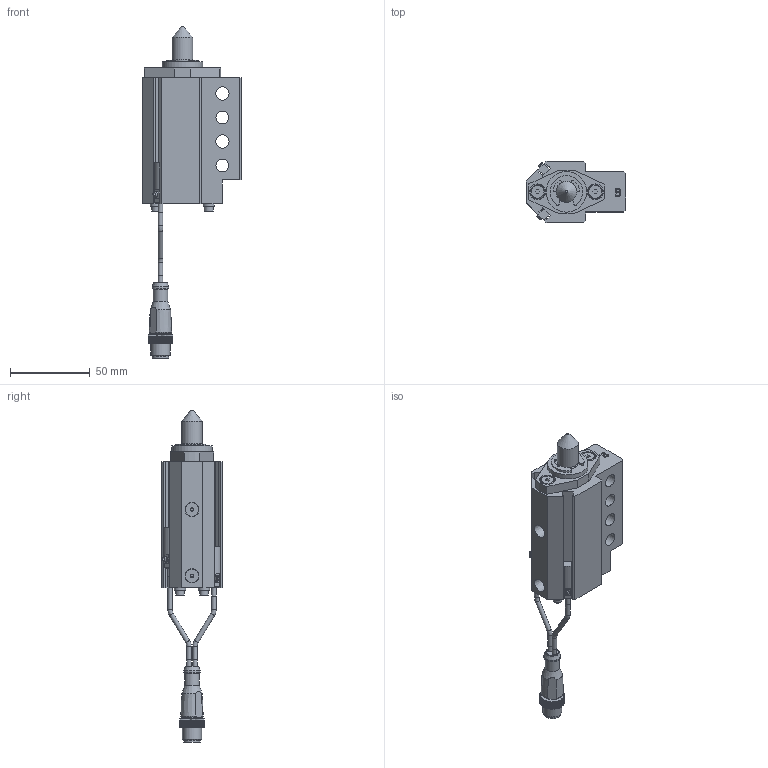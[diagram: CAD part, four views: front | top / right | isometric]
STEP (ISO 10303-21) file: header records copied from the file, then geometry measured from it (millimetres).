
FILE_DESCRIPTION(/* description */ ('NAAMS FLOATING MICRO PIN'),/* implementation_level */ '2;1');
FILE_NAME(/* name */ 'C:\Vault Workspace\CAD\Welker\Shot Pin\NMP\NMP130012ABNL3.stp',/* time_stamp */ '2021-01-27T10:58:56-05:00',/* author */ ('WELKER'),/* organization */ (''),/* preprocessor_version */ 'ST-DEVELOPER v18.1',/* originating_system */ 'Autodesk Inventor 2020',/* authorisation */ '');
FILE_SCHEMA (('AUTOMOTIVE_DESIGN { 1 0 10303 214 3 1 1 }'));
Length unit declared in the file: millimetre
Products named in the file (16): NMPL01; NMP L3 SWITCH; L3 Connector; L3 Sensor 1; L3 Sensor 2; L3 Sensor cable; L3 Sensor cable 2; M3X0.5-8 SHCS; NL3; NMPE06; NMPE03; NMPE05-DIA-LENGTH; 985432A218; NMPE01B-PORT; RMPE02; M5X5 SHOULDER
Assembly tree (22 placements, depth 3):
  NMPL01
    NMP L3 SWITCH
      L3 Connector
      L3 Sensor 1
      L3 Sensor 2
      L3 Sensor cable
      L3 Sensor cable 2
    M3X0.5-8 SHCS  x4
    NL3  x4
    NMPE06
    NMPE03
    NMPE05-DIA-LENGTH
    985432A218
    NMPE01B-PORT
    RMPE02
    M5X5 SHOULDER  x2
Bounding box: 62 x 38.1 x 207.71 mm (x, y, z)
Volume: 111748.2 mm3; surface area: 45370.7 mm2
Topology: 21 solids, 21 shells, 756 faces, 2047 edges, 1368 vertices
Faces by surface type: plane 552, cylinder 143, cone 31, bspline 16, torus 11, sphere 3
Full cylindrical faces by diameter (mm): 2 x2, 2.459 x4, 2.9 x10, 3 x5, 3.242 x2, 3.4 x4, 4 x2, 5 x6, 5.5 x4, 7 x4, 8 x2, 8.3 x2, 8.376 x2, 9 x3, 10 x3, 10.4 x1, 10.5 x1, 12 x1, 13 x3, 16 x2, 19.05 x3, 21 x1, 22.5 x1, 23.672 x1, 24 x1, 25.4 x1, 25.5 x1, 26.5 x1, 28.677 x1, 29.21 x1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
Entity records: 23136 total; most frequent: CARTESIAN_POINT 4356, ORIENTED_EDGE 3792, DIRECTION 3714, EDGE_CURVE 1896, LINE 1392, VECTOR 1392, VERTEX_POINT 1273, AXIS2_PLACEMENT_3D 1161
